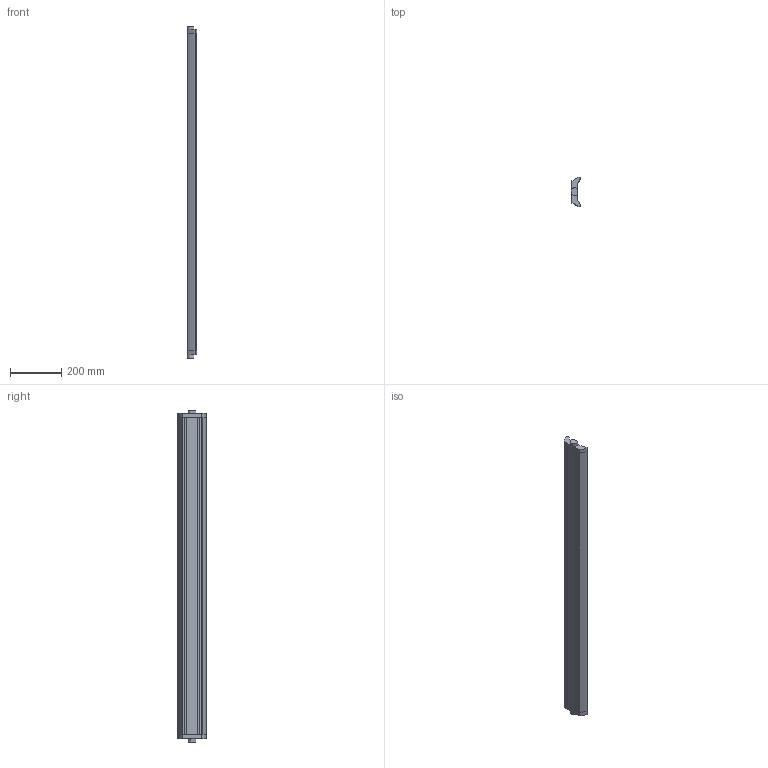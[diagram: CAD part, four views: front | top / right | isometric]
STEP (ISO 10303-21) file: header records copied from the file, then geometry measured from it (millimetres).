
FILE_DESCRIPTION (( 'STEP AP214' ), '1' );
FILE_NAME ('440L-AM0751200.STEP', '2008-02-14T22:32:16', ( 'me' ), ( '' ), 'SwSTEP 2.0', 'SolidWorks 2007', '' );
FILE_SCHEMA (( 'AUTOMOTIVE_DESIGN' ));
Length unit declared in the file: millimetre
Products named in the file (1): 440L-AM0751200
Bounding box: 35.51 x 113.76 x 1296 mm (x, y, z)
Volume: 2709541.3 mm3; surface area: 403510.5 mm2
Topology: 1 solids, 1 shells, 74 faces, 202 edges, 132 vertices
Faces by surface type: plane 44, cylinder 30
Entity records: 2879 total; most frequent: DIRECTION 420, CARTESIAN_POINT 409, ORIENTED_EDGE 404, EDGE_CURVE 202, AXIS2_PLACEMENT_3D 143, VECTOR 134, LINE 134, VERTEX_POINT 132
